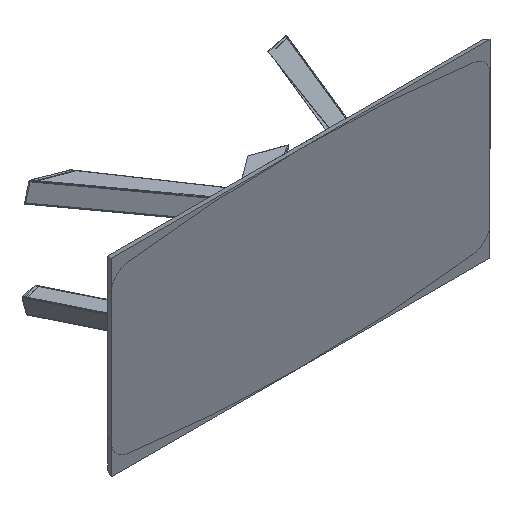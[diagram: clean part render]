
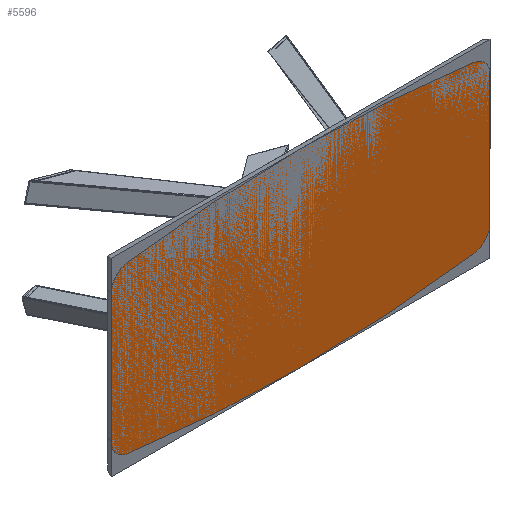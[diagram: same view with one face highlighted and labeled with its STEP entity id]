
A CAD part, isometric view. The second image highlights one B-rep face of the part: STEP entity #5596.
In plain terms, the highlighted planar face has unit normal (0, -1, 0).
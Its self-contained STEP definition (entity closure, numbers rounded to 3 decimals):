
#513=CIRCLE('',#6528,100.);
#515=CIRCLE('',#6532,100.);
#517=CIRCLE('',#6535,6704.167);
#519=CIRCLE('',#6538,100.);
#521=CIRCLE('',#6542,100.);
#523=CIRCLE('',#6545,6704.167);
#1633=ORIENTED_EDGE('',*,*,#2468,.T.);
#1634=ORIENTED_EDGE('',*,*,#2472,.T.);
#1635=ORIENTED_EDGE('',*,*,#2475,.T.);
#1636=ORIENTED_EDGE('',*,*,#2478,.T.);
#1637=ORIENTED_EDGE('',*,*,#2481,.T.);
#1638=ORIENTED_EDGE('',*,*,#2484,.T.);
#1639=ORIENTED_EDGE('',*,*,#2487,.T.);
#1640=ORIENTED_EDGE('',*,*,#2490,.T.);
#2468=EDGE_CURVE('',#3006,#3007,#513,.T.);
#2472=EDGE_CURVE('',#3007,#3010,#3607,.T.);
#2475=EDGE_CURVE('',#3010,#3012,#515,.T.);
#2478=EDGE_CURVE('',#3012,#3014,#517,.T.);
#2481=EDGE_CURVE('',#3014,#3016,#519,.T.);
#2484=EDGE_CURVE('',#3016,#3018,#3613,.T.);
#2487=EDGE_CURVE('',#3018,#3020,#521,.T.);
#2490=EDGE_CURVE('',#3020,#3006,#523,.T.);
#3006=VERTEX_POINT('',#9474);
#3007=VERTEX_POINT('',#9475);
#3010=VERTEX_POINT('',#9483);
#3012=VERTEX_POINT('',#9489);
#3014=VERTEX_POINT('',#9495);
#3016=VERTEX_POINT('',#9501);
#3018=VERTEX_POINT('',#9507);
#3020=VERTEX_POINT('',#9513);
#3607=LINE('',#9482,#4060);
#3613=LINE('',#9506,#4066);
#4060=VECTOR('',#7783,1000.);
#4066=VECTOR('',#7809,1000.);
#4420=EDGE_LOOP('',(#1633,#1634,#1635,#1636,#1637,#1638,#1639,#1640));
#4945=FACE_BOUND('',#4420,.T.);
#5376=PLANE('',#6574);
#5596=ADVANCED_FACE('',(#4945),#5376,.T.);
#6528=AXIS2_PLACEMENT_3D('',#9473,#7775,#7776);
#6532=AXIS2_PLACEMENT_3D('',#9488,#7788,#7789);
#6535=AXIS2_PLACEMENT_3D('',#9494,#7795,#7796);
#6538=AXIS2_PLACEMENT_3D('',#9500,#7802,#7803);
#6542=AXIS2_PLACEMENT_3D('',#9512,#7814,#7815);
#6545=AXIS2_PLACEMENT_3D('',#9518,#7821,#7822);
#6574=AXIS2_PLACEMENT_3D('',#9573,#7879,#7880);
#7775=DIRECTION('',(0.,-1.,0.));
#7776=DIRECTION('',(-1.,0.,0.));
#7783=DIRECTION('',(0.,0.,1.));
#7788=DIRECTION('',(0.,-1.,0.));
#7789=DIRECTION('',(1.,0.,0.));
#7795=DIRECTION('',(0.,-1.,0.));
#7796=DIRECTION('',(1.,0.,0.));
#7802=DIRECTION('',(0.,-1.,0.));
#7803=DIRECTION('',(1.,0.,0.));
#7809=DIRECTION('',(0.,0.,-1.));
#7814=DIRECTION('',(0.,-1.,0.));
#7815=DIRECTION('',(1.,0.,0.));
#7821=DIRECTION('',(0.,-1.,0.));
#7822=DIRECTION('',(1.,0.,0.));
#7879=DIRECTION('',(0.,-1.,0.));
#7880=DIRECTION('',(0.,0.,-1.));
#9473=CARTESIAN_POINT('',(900.,0.,-338.388));
#9474=CARTESIAN_POINT('',(913.628,0.,-437.455));
#9475=CARTESIAN_POINT('',(1000.,0.,-338.388));
#9482=CARTESIAN_POINT('',(1000.,0.,-338.388));
#9483=CARTESIAN_POINT('',(1000.,0.,338.388));
#9488=CARTESIAN_POINT('',(900.,0.,338.388));
#9489=CARTESIAN_POINT('',(913.628,0.,437.455));
#9494=CARTESIAN_POINT('',(0.,0.,-6204.167));
#9495=CARTESIAN_POINT('',(-913.628,0.,437.455));
#9500=CARTESIAN_POINT('',(-900.,0.,338.388));
#9501=CARTESIAN_POINT('',(-1000.,0.,338.388));
#9506=CARTESIAN_POINT('',(-1000.,0.,-338.388));
#9507=CARTESIAN_POINT('',(-1000.,0.,-338.388));
#9512=CARTESIAN_POINT('',(-900.,0.,-338.388));
#9513=CARTESIAN_POINT('',(-913.628,0.,-437.455));
#9518=CARTESIAN_POINT('',(0.,0.,6204.167));
#9573=CARTESIAN_POINT('',(900.,0.,-338.388));
